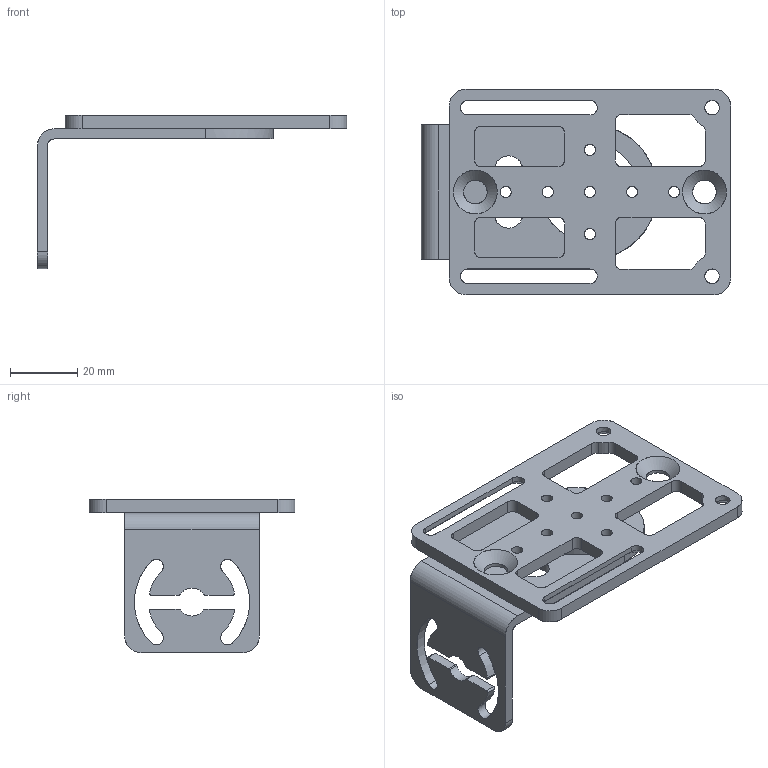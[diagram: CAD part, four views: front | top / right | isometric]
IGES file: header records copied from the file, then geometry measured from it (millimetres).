
Global section: file name: C:\Users\acarrieri\Desktop\PDS\DSD_IGS-ST\DSD0572.igs; native system: NX V7.5; preprocessor: SIEMENS PLM Software NX 7.5; date: 20130524.152106; units: millimetre
Bounding box: 91.75 x 61 x 45.5 mm (x, y, z)
Surface area: 18122.1 mm2 (no closed solid volume)
Topology: 0 solids, 0 shells, 126 faces, 1082 edges, 1074 vertices
Faces by surface type: bspline 126
